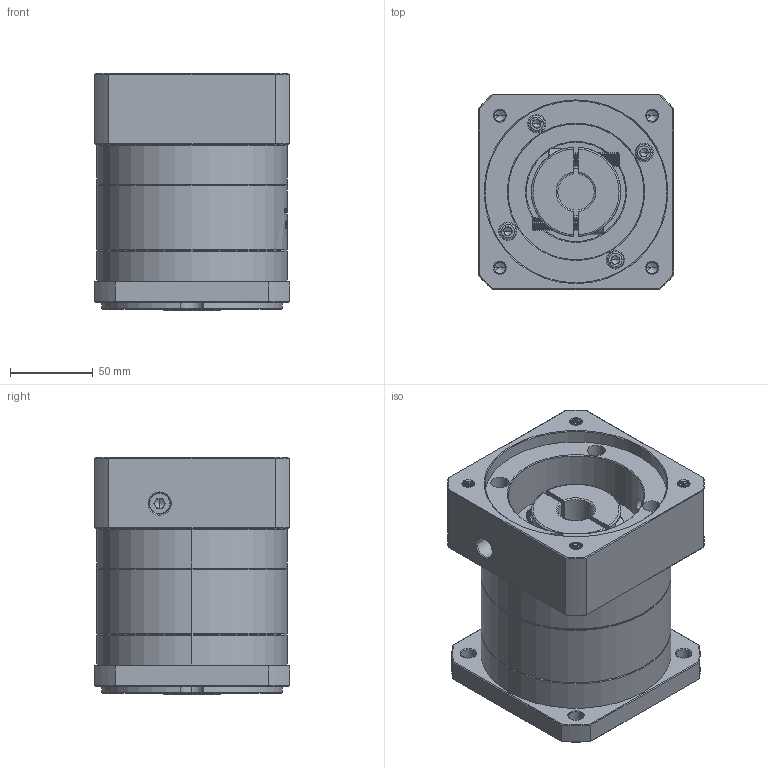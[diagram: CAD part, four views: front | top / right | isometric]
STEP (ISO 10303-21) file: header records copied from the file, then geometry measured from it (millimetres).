
FILE_DESCRIPTION (( 'STEP AP214' ), '1' );
FILE_NAME ('ZF120A-K25-L1-22-110-130-M8.step', '2023-03-07T09:36:36', ( '' ), ( '' ), 'SwSTEP 2.0', 'SolidWorks 2016', '' );
FILE_SCHEMA (( 'AUTOMOTIVE_DESIGN' ));
Length unit declared in the file: millimetre
Products named in the file (1): ZF120A-K25-L1-22-110-130-M8
Bounding box: 118 x 118 x 143.5 mm (x, y, z)
Volume: 1399033.5 mm3; surface area: 163498.7 mm2
Topology: 6 solids, 6 shells, 1904 faces, 5007 edges, 3201 vertices
Faces by surface type: plane 850, cylinder 389, cone 333, bspline 332
Entity records: 102082 total; most frequent: CARTESIAN_POINT 37730, ORIENTED_EDGE 9958, DIRECTION 7756, EDGE_CURVE 4979, VERTEX_POINT 3201, VECTOR 2706, LINE 2706, AXIS2_PLACEMENT_3D 2525
